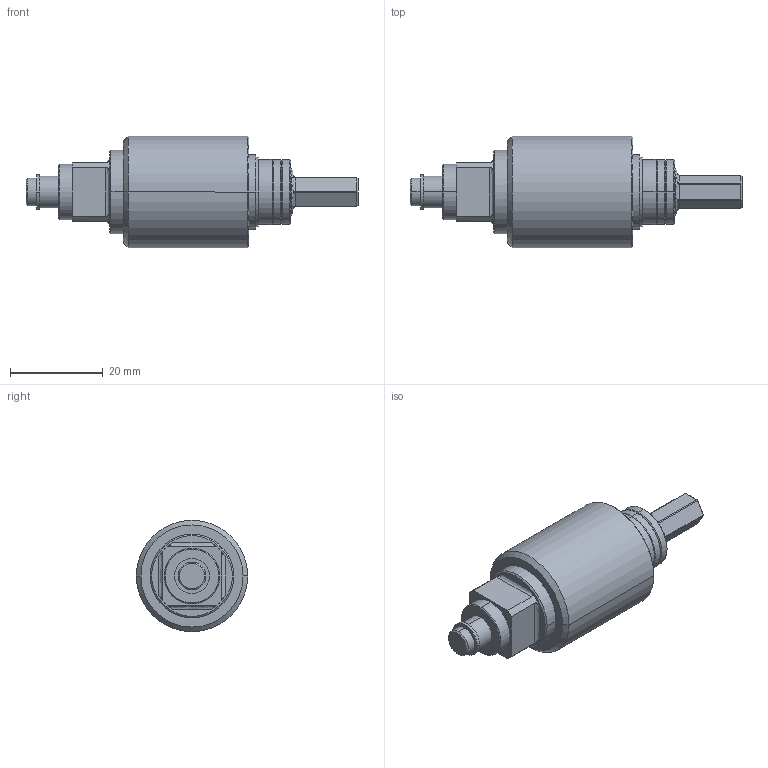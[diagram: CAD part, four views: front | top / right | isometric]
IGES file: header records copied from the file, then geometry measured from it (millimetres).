
Start section:  PTC IGES file: 6159363770_dim.igs
Global section: file name: 6159363770_dim.igs; native system: Creo Parametric by PTC Inc.; preprocessor: 2019080; author: gre_svc_itools; organization: Unknown; date: 20200618.085310; units: millimetre
Bounding box: 71.5 x 24 x 24 mm (x, y, z)
Surface area: 8755.5 mm2 (no closed solid volume)
Topology: 0 solids, 0 shells, 143 faces, 640 edges, 640 vertices
Faces by surface type: revolution 104, bspline 39
